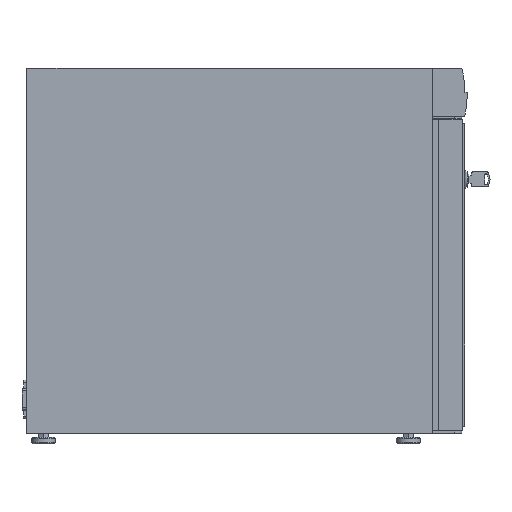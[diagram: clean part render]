
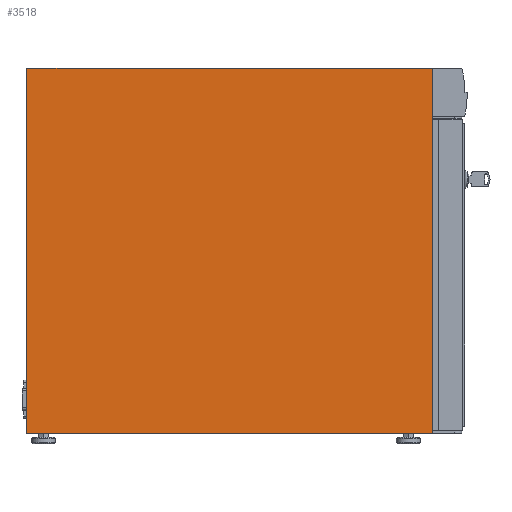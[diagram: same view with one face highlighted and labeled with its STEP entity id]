
A CAD part, left-side view. The second image highlights one B-rep face of the part: STEP entity #3518.
In plain terms, the highlighted planar face has unit normal (-1, 0, 0).
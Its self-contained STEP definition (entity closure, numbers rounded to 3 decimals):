
#412=FACE_OUTER_BOUND('',#654,.T.);
#654=EDGE_LOOP('',(#3173,#3174,#3175,#3176));
#810=LINE('',#5128,#1188);
#823=LINE('',#5154,#1201);
#956=LINE('',#5553,#1334);
#972=LINE('',#5586,#1350);
#1188=VECTOR('',#4138,381.);
#1201=VECTOR('',#4157,423.);
#1334=VECTOR('',#4554,423.);
#1350=VECTOR('',#4586,381.);
#1527=VERTEX_POINT('',#5125);
#1528=VERTEX_POINT('',#5127);
#1538=VERTEX_POINT('',#5153);
#1672=VERTEX_POINT('',#5551);
#1909=EDGE_CURVE('',#1528,#1527,#810,.T.);
#1922=EDGE_CURVE('',#1538,#1528,#823,.T.);
#2107=EDGE_CURVE('',#1527,#1672,#956,.T.);
#2124=EDGE_CURVE('',#1672,#1538,#972,.T.);
#3173=ORIENTED_EDGE('',*,*,#2124,.T.);
#3174=ORIENTED_EDGE('',*,*,#1922,.T.);
#3175=ORIENTED_EDGE('',*,*,#1909,.T.);
#3176=ORIENTED_EDGE('',*,*,#2107,.T.);
#3320=PLANE('',#3810);
#3518=ADVANCED_FACE('',(#412),#3320,.F.);
#3810=AXIS2_PLACEMENT_3D('',#5875,#4767,#4768);
#4138=DIRECTION('',(0.,0.,-1.));
#4157=DIRECTION('',(0.,1.,0.));
#4554=DIRECTION('',(0.,-1.,0.));
#4586=DIRECTION('',(0.,0.,1.));
#4767=DIRECTION('center_axis',(1.,0.,0.));
#4768=DIRECTION('ref_axis',(0.,0.,-1.));
#5125=CARTESIAN_POINT('',(-112.5,461.3,11.));
#5127=CARTESIAN_POINT('',(-112.5,461.3,392.));
#5128=CARTESIAN_POINT('',(-112.5,461.3,392.));
#5153=CARTESIAN_POINT('',(-112.5,38.3,392.));
#5154=CARTESIAN_POINT('',(-112.5,7.237,392.));
#5551=CARTESIAN_POINT('',(-112.5,38.3,11.));
#5553=CARTESIAN_POINT('',(-112.5,461.3,11.));
#5586=CARTESIAN_POINT('',(-112.5,38.3,11.));
#5875=CARTESIAN_POINT('Origin',(-112.5,241.281,206.958));
